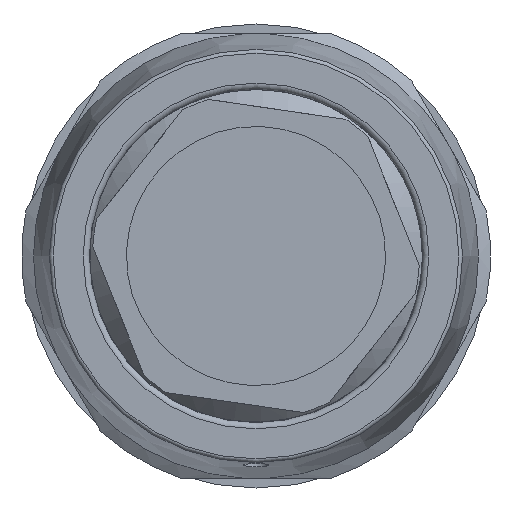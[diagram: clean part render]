
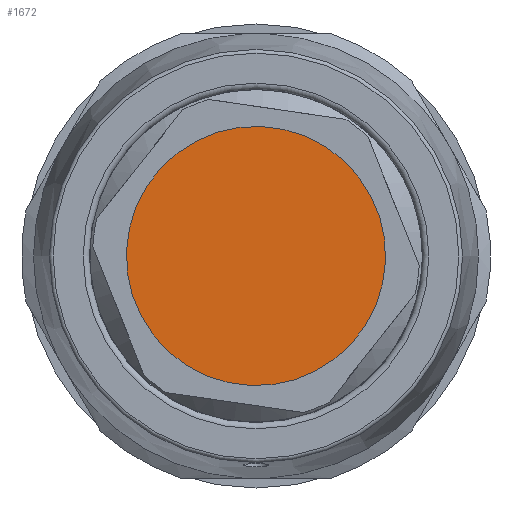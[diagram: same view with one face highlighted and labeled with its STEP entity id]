
A CAD part, left-side view. The second image highlights one B-rep face of the part: STEP entity #1672.
In plain terms, the highlighted planar face has unit normal (-1, 0, 0).
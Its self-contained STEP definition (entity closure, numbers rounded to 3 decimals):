
#356=FACE_OUTER_BOUND('',#5740,.T.);
#1119=PLANE('',#16557);
#1672=ADVANCED_FACE('',(#356),#1119,.T.);
#5740=EDGE_LOOP('',(#7062));
#7062=ORIENTED_EDGE('',*,*,#13432,.T.);
#11736=VERTEX_POINT('',#22673);
#13432=EDGE_CURVE('',#11736,#11736,#15783,.T.);
#15783=CIRCLE('',#16555,10.5);
#16555=AXIS2_PLACEMENT_3D('',#22672,#18437,#18438);
#16557=AXIS2_PLACEMENT_3D('',#22675,#18441,#18442);
#18437=DIRECTION('',(-1.,0.,0.));
#18438=DIRECTION('',(0.,0.382,-0.924));
#18441=DIRECTION('',(-1.,0.,0.));
#18442=DIRECTION('',(0.,0.382,-0.924));
#22672=CARTESIAN_POINT('',(-57.84,0.,0.));
#22673=CARTESIAN_POINT('',(-57.84,4.009,-9.704));
#22675=CARTESIAN_POINT('',(-57.84,4.009,-9.704));
